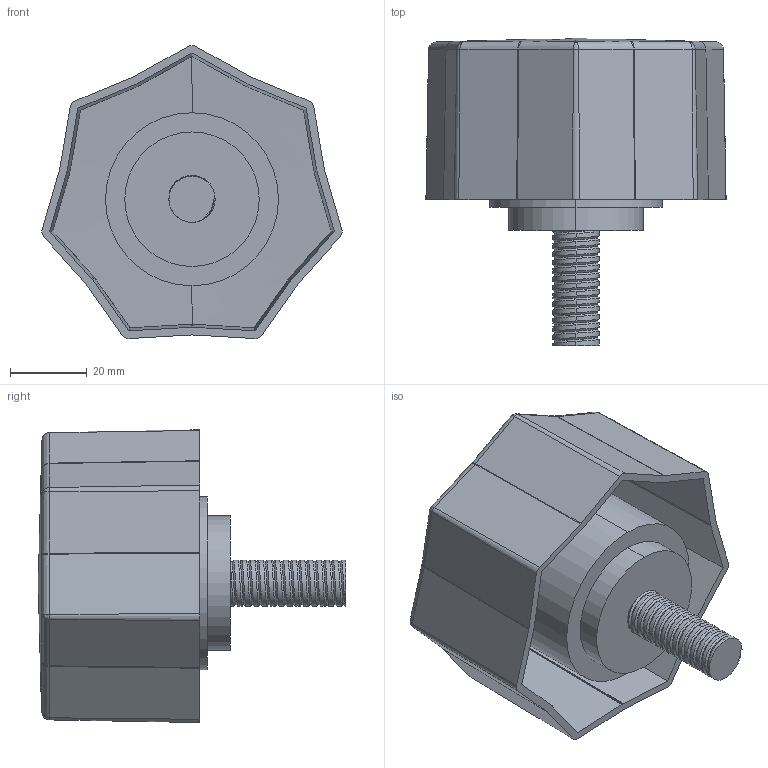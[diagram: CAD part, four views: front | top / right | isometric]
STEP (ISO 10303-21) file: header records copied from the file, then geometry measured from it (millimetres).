
FILE_DESCRIPTION (( 'STEP AP203' ), '1' );
FILE_NAME ('AP-1050-80-M12-30.STEP', '2015-11-23T12:07:15', ( '' ), ( '' ), 'SwSTEP 2.0', 'SolidWorks 2014', '' );
FILE_SCHEMA (( 'CONFIG_CONTROL_DESIGN' ));
Length unit declared in the file: millimetre
Products named in the file (1): AP-1050-80-M12-30
Bounding box: 78.09 x 80 x 76.23 mm (x, y, z)
Volume: 101739.4 mm3; surface area: 34753 mm2
Topology: 1 solids, 1 shells, 147 faces, 375 edges, 224 vertices
Faces by surface type: cylinder 51, bspline 51, plane 34, cone 11
Entity records: 8452 total; most frequent: CARTESIAN_POINT 5522, ORIENTED_EDGE 732, DIRECTION 416, EDGE_CURVE 366, VERTEX_POINT 224, EDGE_LOOP 150, ADVANCED_FACE 147, FACE_OUTER_BOUND 147
